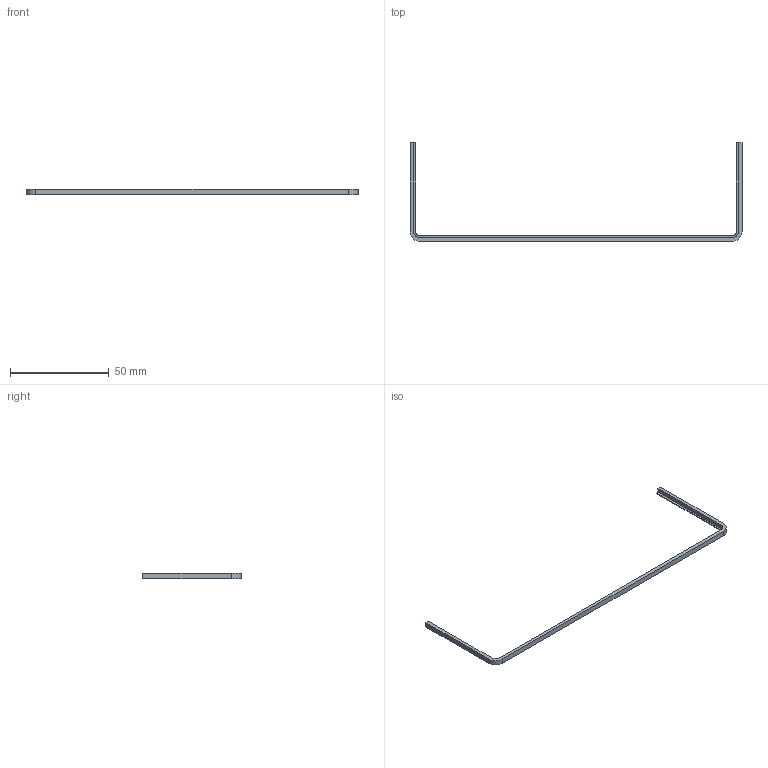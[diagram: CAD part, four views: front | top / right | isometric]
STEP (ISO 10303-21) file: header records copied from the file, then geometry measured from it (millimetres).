
FILE_DESCRIPTION(('Open CASCADE Model'),'2;1');
FILE_NAME('Open CASCADE Shape Model','2026-11-07T16:11:37',('Author'),( 'Open CASCADE'),'Open CASCADE STEP processor 7.9','Open CASCADE 7.9' ,'Unknown');
FILE_SCHEMA(('AUTOMOTIVE_DESIGN { 1 0 10303 214 1 1 1 1 }'));
Length unit declared in the file: millimetre
Products named in the file (1): Open CASCADE STEP translator 7.9 5
Bounding box: 168 x 50 x 2.7 mm (x, y, z)
Volume: 1370.5 mm3; surface area: 2870.2 mm2
Topology: 1 solids, 1 shells, 20 faces, 54 edges, 36 vertices
Faces by surface type: plane 14, cylinder 6
Entity records: 1319 total; most frequent: CARTESIAN_POINT 260, DIRECTION 185, LINE 109, VECTOR 109, ORIENTED_EDGE 108, PCURVE 108, DEFINITIONAL_REPRESENTATION 108, EDGE_CURVE 54
